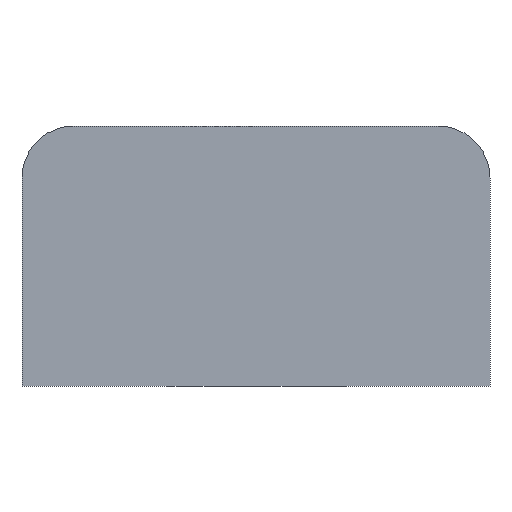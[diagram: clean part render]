
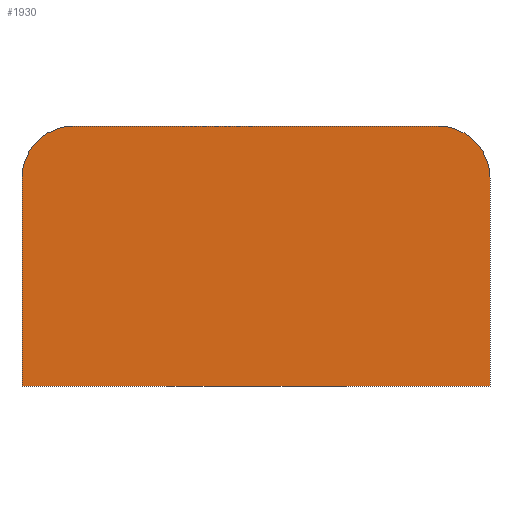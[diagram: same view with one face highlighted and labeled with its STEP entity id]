
A CAD part, front view. The second image highlights one B-rep face of the part: STEP entity #1930.
In plain terms, the highlighted planar face has unit normal (0, -1, 0).
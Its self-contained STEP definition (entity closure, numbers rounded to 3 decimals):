
#13 = ORIENTED_EDGE ( 'NONE', *, *, #1628, .F. ) ;
#107 = DIRECTION ( 'NONE',  ( 1., 0., 0. ) ) ;
#170 = VERTEX_POINT ( 'NONE', #3699 ) ;
#255 = DIRECTION ( 'NONE',  ( 0., 0., -1. ) ) ;
#334 = DIRECTION ( 'NONE',  ( 0., 1., 0. ) ) ;
#351 = EDGE_CURVE ( 'NONE', #3912, #170, #444, .T. ) ;
#363 = AXIS2_PLACEMENT_3D ( 'NONE', #2557, #662, #2875 ) ;
#373 = VERTEX_POINT ( 'NONE', #1529 ) ;
#444 = LINE ( 'NONE', #3730, #2033 ) ;
#448 = AXIS2_PLACEMENT_3D ( 'NONE', #635, #334, #1301 ) ;
#477 = CARTESIAN_POINT ( 'NONE',  ( 18., 0., 4. ) ) ;
#628 = EDGE_CURVE ( 'NONE', #3181, #2376, #1957, .T. ) ;
#635 = CARTESIAN_POINT ( 'NONE',  ( 16., 0., 8. ) ) ;
#662 = DIRECTION ( 'NONE',  ( 0., 1., 0. ) ) ;
#758 = CARTESIAN_POINT ( 'NONE',  ( 9., 0., 10. ) ) ;
#876 = DIRECTION ( 'NONE',  ( 1., 0., 0. ) ) ;
#970 = LINE ( 'NONE', #1789, #1713 ) ;
#1156 = EDGE_CURVE ( 'NONE', #2280, #3181, #2176, .T. ) ;
#1159 = ORIENTED_EDGE ( 'NONE', *, *, #351, .T. ) ;
#1301 = DIRECTION ( 'NONE',  ( 1., 0., 0. ) ) ;
#1366 = FACE_OUTER_BOUND ( 'NONE', #1681, .T. ) ;
#1517 = PLANE ( 'NONE',  #2701 ) ;
#1529 = CARTESIAN_POINT ( 'NONE',  ( 0., 0., 8. ) ) ;
#1628 = EDGE_CURVE ( 'NONE', #373, #2280, #3514, .T. ) ;
#1681 = EDGE_LOOP ( 'NONE', ( #2828, #1159, #3718, #2718, #3487, #13 ) ) ;
#1713 = VECTOR ( 'NONE', #3702, 1000. ) ;
#1789 = CARTESIAN_POINT ( 'NONE',  ( 0., 0., 4. ) ) ;
#1930 = ADVANCED_FACE ( 'NONE', ( #1366 ), #1517, .T. ) ;
#1957 = CIRCLE ( 'NONE', #448, 2. ) ;
#2005 = LINE ( 'NONE', #477, #3233 ) ;
#2033 = VECTOR ( 'NONE', #876, 1000. ) ;
#2171 = DIRECTION ( 'NONE',  ( 0., -1., 0. ) ) ;
#2176 = LINE ( 'NONE', #758, #3658 ) ;
#2280 = VERTEX_POINT ( 'NONE', #2808 ) ;
#2372 = CARTESIAN_POINT ( 'NONE',  ( 0., 0., 0. ) ) ;
#2376 = VERTEX_POINT ( 'NONE', #2405 ) ;
#2405 = CARTESIAN_POINT ( 'NONE',  ( 18., 0., 8. ) ) ;
#2557 = CARTESIAN_POINT ( 'NONE',  ( 2., 0., 8. ) ) ;
#2701 = AXIS2_PLACEMENT_3D ( 'NONE', #4070, #2171, #255 ) ;
#2718 = ORIENTED_EDGE ( 'NONE', *, *, #628, .F. ) ;
#2808 = CARTESIAN_POINT ( 'NONE',  ( 2., 0., 10. ) ) ;
#2828 = ORIENTED_EDGE ( 'NONE', *, *, #3050, .F. ) ;
#2875 = DIRECTION ( 'NONE',  ( 1., 0., 0. ) ) ;
#3050 = EDGE_CURVE ( 'NONE', #3912, #373, #970, .T. ) ;
#3181 = VERTEX_POINT ( 'NONE', #3826 ) ;
#3233 = VECTOR ( 'NONE', #3669, 1000. ) ;
#3487 = ORIENTED_EDGE ( 'NONE', *, *, #1156, .F. ) ;
#3514 = CIRCLE ( 'NONE', #363, 2. ) ;
#3554 = EDGE_CURVE ( 'NONE', #170, #2376, #2005, .T. ) ;
#3658 = VECTOR ( 'NONE', #107, 1000. ) ;
#3669 = DIRECTION ( 'NONE',  ( 0., 0., 1. ) ) ;
#3699 = CARTESIAN_POINT ( 'NONE',  ( 18., 0., 0. ) ) ;
#3702 = DIRECTION ( 'NONE',  ( 0., 0., 1. ) ) ;
#3718 = ORIENTED_EDGE ( 'NONE', *, *, #3554, .T. ) ;
#3730 = CARTESIAN_POINT ( 'NONE',  ( 9., 0., 0. ) ) ;
#3826 = CARTESIAN_POINT ( 'NONE',  ( 16., 0., 10. ) ) ;
#3912 = VERTEX_POINT ( 'NONE', #2372 ) ;
#4070 = CARTESIAN_POINT ( 'NONE',  ( 0., 0., 0. ) ) ;
